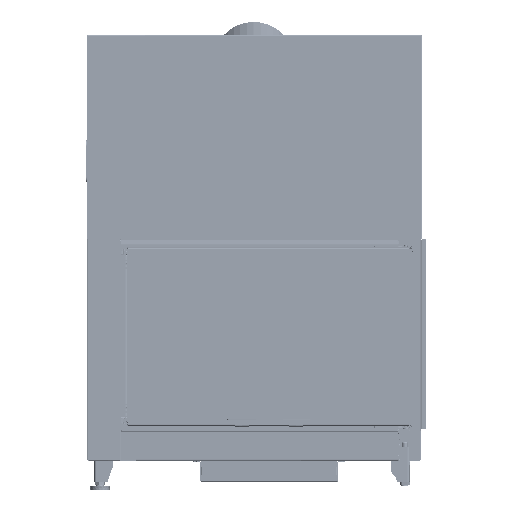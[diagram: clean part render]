
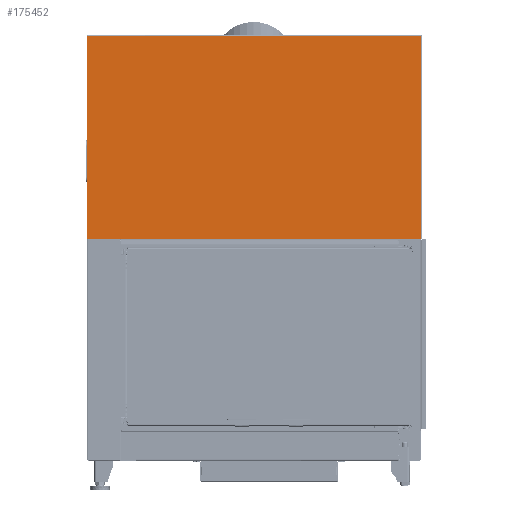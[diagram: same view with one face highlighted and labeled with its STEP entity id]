
A CAD part, front view. The second image highlights one B-rep face of the part: STEP entity #175452.
In plain terms, the highlighted planar face has unit normal (0, -1, 0).
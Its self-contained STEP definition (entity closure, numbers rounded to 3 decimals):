
#7894=PLANE('',#190872);
#16451=FACE_OUTER_BOUND('',#26242,.T.);
#26242=EDGE_LOOP('',(#147003,#147004,#147005,#147006,#147007,#147008,#147009,
#147010,#147011,#147012,#147013));
#38837=LINE('',#281926,#55067);
#41689=LINE('',#292678,#57919);
#41690=LINE('',#292680,#57920);
#41691=LINE('',#292683,#57921);
#41692=LINE('',#292685,#57922);
#41693=LINE('',#292687,#57923);
#41694=LINE('',#292689,#57924);
#41695=LINE('',#292692,#57925);
#55067=VECTOR('',#225400,10.);
#57919=VECTOR('',#234374,10.);
#57920=VECTOR('',#234375,10.);
#57921=VECTOR('',#234378,10.);
#57922=VECTOR('',#234379,10.);
#57923=VECTOR('',#234380,10.);
#57924=VECTOR('',#234381,10.);
#57925=VECTOR('',#234384,10.);
#65657=CIRCLE('',#190873,3.);
#65658=CIRCLE('',#190874,0.1);
#65659=CIRCLE('',#190875,3.);
#76730=VERTEX_POINT('',#281923);
#76731=VERTEX_POINT('',#281925);
#79589=VERTEX_POINT('',#292674);
#79590=VERTEX_POINT('',#292675);
#79591=VERTEX_POINT('',#292677);
#79592=VERTEX_POINT('',#292679);
#79593=VERTEX_POINT('',#292682);
#79594=VERTEX_POINT('',#292684);
#79595=VERTEX_POINT('',#292686);
#79596=VERTEX_POINT('',#292688);
#79597=VERTEX_POINT('',#292690);
#97969=EDGE_CURVE('',#76731,#76730,#38837,.T.);
#102467=EDGE_CURVE('',#79589,#79590,#65657,.T.);
#102468=EDGE_CURVE('',#79589,#79591,#41689,.T.);
#102469=EDGE_CURVE('',#79591,#79592,#41690,.T.);
#102470=EDGE_CURVE('',#79592,#76731,#65658,.T.);
#102471=EDGE_CURVE('',#76730,#79593,#41691,.T.);
#102472=EDGE_CURVE('',#79593,#79594,#41692,.T.);
#102473=EDGE_CURVE('',#79594,#79595,#41693,.T.);
#102474=EDGE_CURVE('',#79595,#79596,#41694,.T.);
#102475=EDGE_CURVE('',#79597,#79596,#65659,.T.);
#102476=EDGE_CURVE('',#79597,#79590,#41695,.T.);
#147003=ORIENTED_EDGE('',*,*,#102467,.F.);
#147004=ORIENTED_EDGE('',*,*,#102468,.T.);
#147005=ORIENTED_EDGE('',*,*,#102469,.T.);
#147006=ORIENTED_EDGE('',*,*,#102470,.T.);
#147007=ORIENTED_EDGE('',*,*,#97969,.T.);
#147008=ORIENTED_EDGE('',*,*,#102471,.T.);
#147009=ORIENTED_EDGE('',*,*,#102472,.T.);
#147010=ORIENTED_EDGE('',*,*,#102473,.T.);
#147011=ORIENTED_EDGE('',*,*,#102474,.T.);
#147012=ORIENTED_EDGE('',*,*,#102475,.F.);
#147013=ORIENTED_EDGE('',*,*,#102476,.T.);
#175452=ADVANCED_FACE('',(#16451),#7894,.T.);
#190872=AXIS2_PLACEMENT_3D('',#292673,#234370,#234371);
#190873=AXIS2_PLACEMENT_3D('',#292676,#234372,#234373);
#190874=AXIS2_PLACEMENT_3D('',#292681,#234376,#234377);
#190875=AXIS2_PLACEMENT_3D('',#292691,#234382,#234383);
#225400=DIRECTION('',(0.,0.,-1.));
#234370=DIRECTION('center_axis',(0.,-1.,
0.));
#234371=DIRECTION('ref_axis',(1.,0.,0.));
#234372=DIRECTION('center_axis',(0.,1.,
0.));
#234373=DIRECTION('ref_axis',(-0.707,0.,-0.707));
#234374=DIRECTION('',(1.,0.,0.));
#234375=DIRECTION('',(0.,0.,1.));
#234376=DIRECTION('center_axis',(0.,1.,
0.));
#234377=DIRECTION('ref_axis',(1.,0.,0.));
#234378=DIRECTION('',(1.,0.,0.));
#234379=DIRECTION('',(0.,0.,1.));
#234380=DIRECTION('',(-1.,0.,0.));
#234381=DIRECTION('',(-1.,0.,0.));
#234382=DIRECTION('center_axis',(0.,1.,
0.));
#234383=DIRECTION('ref_axis',(-0.707,0.,0.707));
#234384=DIRECTION('',(0.,0.,-1.));
#281923=CARTESIAN_POINT('',(87.4,-59.998,582.259));
#281925=CARTESIAN_POINT('',(87.4,-59.998,582.359));
#281926=CARTESIAN_POINT('',(87.4,-59.994,715.946));
#292673=CARTESIAN_POINT('Origin',(480.775,-59.991,849.634));
#292674=CARTESIAN_POINT('',(3.,-59.998,582.259));
#292675=CARTESIAN_POINT('',(0.,-59.998,585.259));
#292676=CARTESIAN_POINT('Origin',(3.,-59.998,585.259));
#292677=CARTESIAN_POINT('',(87.2,-59.998,582.259));
#292678=CARTESIAN_POINT('',(0.,-59.998,582.259));
#292679=CARTESIAN_POINT('',(87.2,-59.998,582.359));
#292680=CARTESIAN_POINT('',(87.2,-59.994,715.996));
#292681=CARTESIAN_POINT('Origin',(87.3,-59.998,582.359));
#292682=CARTESIAN_POINT('',(874.65,-59.998,582.259));
#292683=CARTESIAN_POINT('',(0.,-59.998,582.259));
#292684=CARTESIAN_POINT('',(874.65,-59.983,1114.259));
#292685=CARTESIAN_POINT('',(874.65,-59.994,715.946));
#292686=CARTESIAN_POINT('',(84.15,-59.983,1114.259));
#292687=CARTESIAN_POINT('',(679.088,-59.983,1114.259));
#292688=CARTESIAN_POINT('',(3.,-59.983,1114.259));
#292689=CARTESIAN_POINT('',(84.15,-59.983,1114.259));
#292690=CARTESIAN_POINT('',(0.,-59.983,1111.259));
#292691=CARTESIAN_POINT('Origin',(3.,-59.983,1111.259));
#292692=CARTESIAN_POINT('',(0.,-59.983,1114.259));
